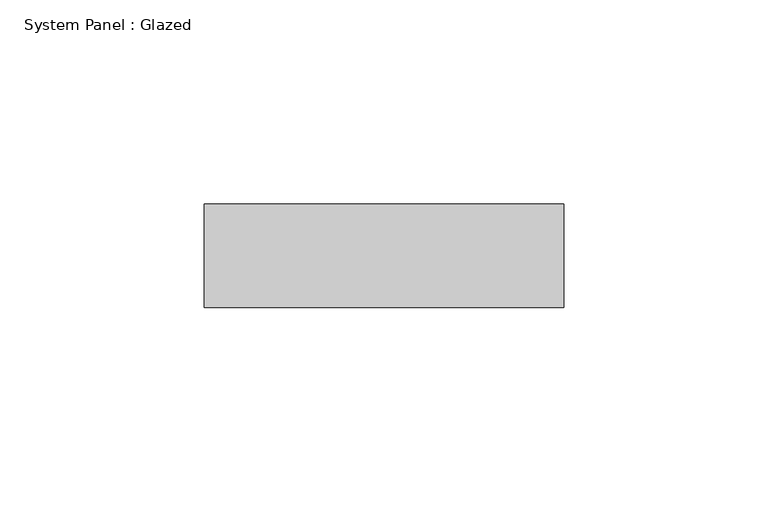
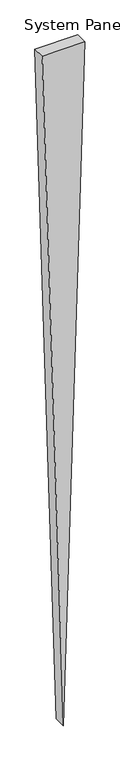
"""IFC4 building model written with IfcOpenShell, lengths in millimetres: plate geometry, System Panel : Glazed."""

from ifc_helpers import new_model, si_unit, frame, origin, place, context, project, spatial, polyline, outline, extrude, source, transform, mapped, element, save


def system_panel_glazed_0cc4b934(model_context):
    return source(origin(), model_context, "Body", "SweptSolid", [
        extrude(outline(polyline([(1471.7858309, -44.0393603), (0.0, 0.0), (1471.7858309, 44.0393603), (1471.7858309, -44.0393603)])), frame((0.0, -44.45, 0.0), z_axis=(0.0, 1.0, 0.0), x_axis=(0.0, 0.0, 1.0)), (0.0, 0.0, 1.0), 25.4),
    ])


if __name__ == "__main__":
    model = new_model("IFC4")
    model_context = context("Model", 3, world=origin())
    ifc_project = project(units=[si_unit("LENGTHUNIT", "METRE", prefix="MILLI")], contexts=[model_context])
    site = spatial("IfcSite", under=ifc_project)
    building = spatial("IfcBuilding", under=site)
    placement = place(None, origin())
    system_panel_glazed_shape = system_panel_glazed_0cc4b934(model_context)
    element("IfcPlate", 1, ObjectType="System Panel : Glazed", at=placement, inside=building, context=model_context, shape_type="MappedRepresentation", body=[
        mapped(system_panel_glazed_shape, transform((0.0, 0.0, 0.0), x_axis=(1.0, 0.0, 0.0), y_axis=(0.0, 1.0, 0.0), z_axis=(0.0, 0.0, 1.0))),
    ])
    save(model, "model.ifc")
